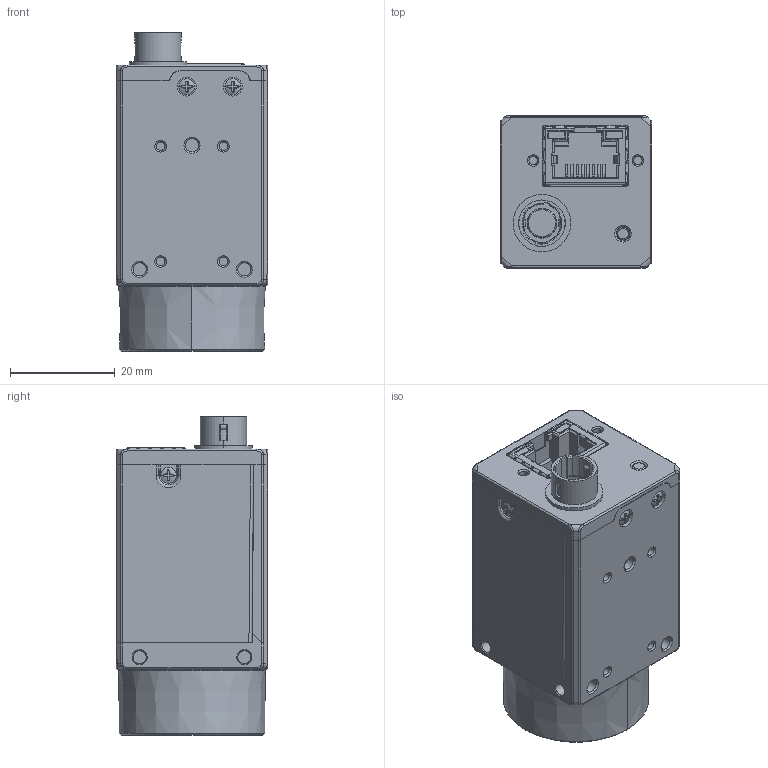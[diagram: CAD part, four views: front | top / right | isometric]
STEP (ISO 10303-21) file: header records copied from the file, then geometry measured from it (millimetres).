
FILE_DESCRIPTION((''),'2;1');
FILE_NAME('MV-CS050-10GMGC_ASM','2020-10-13T10:05:35',('sunli10'),(''),'CREO PARAMETRIC BY PTC INC, 2017260','CREO PARAMETRIC BY PTC INC, 2017260','');
FILE_SCHEMA(('CONFIG_CONTROL_DESIGN'));
Products named in the file (2): MSBR-1; MV-CS050-10GMGC_ASM
Assembly tree (1 placements, depth 2):
  MV-CS050-10GMGC_ASM
    MSBR-1
Bounding box: 29.03 x 29 x 60.85 mm (x, y, z)
Volume: 35752.4 mm3; surface area: 15869.3 mm2
Topology: 1 solids, 12 shells, 2096 faces, 5652 edges, 3554 vertices
Faces by surface type: plane 997, cylinder 495, bspline 250, cone 218, torus 117, sphere 19
Entity records: 82311 total; most frequent: CARTESIAN_POINT 31135, ORIENTED_EDGE 11296, DIRECTION 9889, EDGE_CURVE 5648, VERTEX_POINT 3554, AXIS2_PLACEMENT_3D 3347, VECTOR 3195, LINE 3195
